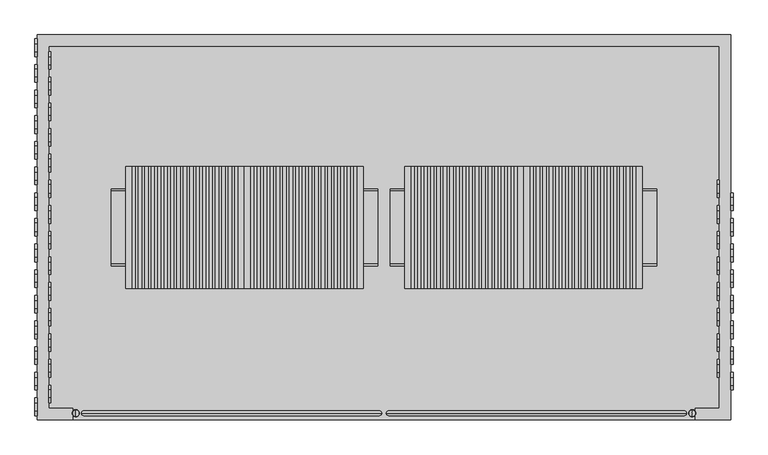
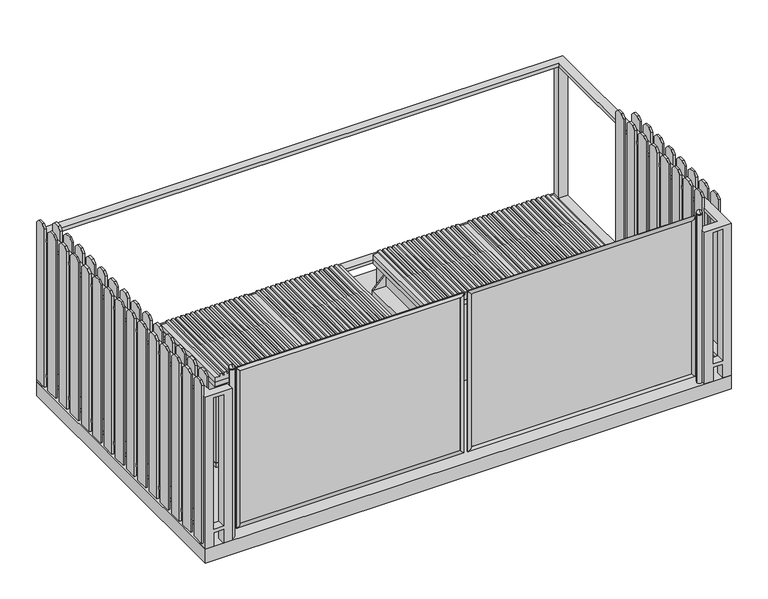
"""IFC4 building model written with IfcOpenShell, lengths in millimetres: geographic element geometry, Wood_Dumpster_Enclosure_3849 : 2 Yard Dumpsters."""

from ifc_helpers import new_model, si_unit, point, frame, frame_2d, origin, place, context, project, spatial, polyline, circle_curve, ellipse_curve, trimmed, segment, composite_curve, outline, extrude, faceted_brep, source, transform, mapped, element, save
from ifc_brep_helpers import plane_surface, cylinder_surface, revolved_surface, advanced_brep


def geographic_element_d687a30b(model_context):
    return source(origin(), model_context, "Body", "SolidModel", [
        advanced_brep(
        [(-2438.4, -1473.2, 1885.95), (-2438.4, -1444.9173308, 1885.95), (-2438.4, -1501.4826692, 1885.95), (-2438.4, -1498.6, 1891.4305324), (-2438.4, -1447.8, 1891.4305324), (-2438.4, -1473.2, 1923.3486146), (-2438.4, -1501.4826692, 1891.4305324), (-2438.4, -1444.9173308, 1891.4305324)],
        [
            (0, 1),
            (1, 2, circle_curve(frame((-2438.4, -1473.2, 1885.95), z_axis=(0.0, 0.0, -1.0), x_axis=(0.0, 1.0, 0.0)), 28.2826692)),
            (2, 0),
            (2, 1, circle_curve(frame((-2438.4, -1473.2, 1885.95), z_axis=(0.0, 0.0, -1.0), x_axis=(0.0, 1.0, 0.0)), 28.2826692)),
            (3, 4, circle_curve(frame((-2438.4, -1473.2, 1891.4305324), z_axis=(0.0, 0.0, 1.0), x_axis=(0.0, 1.0, 0.0)), 25.4)),
            (4, 5, circle_curve(frame((-2438.4, -1479.5879428, 1892.1996337), z_axis=(1.0, 0.0, 0.0), x_axis=(0.0, 0.0, 1.0)), 31.7972455)),
            (5, 3, circle_curve(frame((-2438.4, -1466.8120572, 1892.1996337), z_axis=(1.0, 0.0, 0.0), x_axis=(0.0, 0.0, 1.0)), 31.7972455)),
            (4, 3, circle_curve(frame((-2438.4, -1473.2, 1891.4305324), z_axis=(0.0, 0.0, 1.0), x_axis=(0.0, 1.0, 0.0)), 25.4)),
            (6, 7, circle_curve(frame((-2438.4, -1473.2, 1891.4305324), z_axis=(0.0, 0.0, 1.0), x_axis=(0.0, 1.0, 0.0)), 28.2826692)),
            (7, 4),
            (3, 6),
            (7, 6, circle_curve(frame((-2438.4, -1473.2, 1891.4305324), z_axis=(0.0, 0.0, 1.0), x_axis=(0.0, 1.0, 0.0)), 28.2826692)),
            (1, 7),
            (6, 2),
        ],
        [
            plane_surface(frame((-2438.4, -1473.2, 1885.95), z_axis=(0.0, 0.0, -1.0), x_axis=(0.0, 1.0, 0.0))),
            revolved_surface(trimmed(ellipse_curve(frame((-2438.4, -1479.5879428, 1892.1996337), z_axis=(-1.0, 0.0, 0.0), x_axis=(0.0, 0.0, 1.0)), 31.7972455, 31.7972455), [point((-2438.4, -1473.2, 1923.3486146))], [point((-2438.4, -1447.8, 1891.4305324))], True, "CARTESIAN"), (-2438.4, -1473.2, 1993.4203947), (0.0, 0.0, -1.0)),
            plane_surface(frame((-2438.4, -1473.2, 1891.4305324), z_axis=(0.0, 0.0, 1.0), x_axis=(0.0, 1.0, 0.0))),
            cylinder_surface(frame((-2438.4, -1473.2, 1993.4203947), z_axis=(0.0, 0.0, -1.0), x_axis=(0.0, 1.0, 0.0)), 28.2826692),
        ],
        [
            (0, [[1, 2, 3]]),
            (0, [[-3, 4, -1]]),
            (1, [[5, 6, 7]]),
            (1, [[8, -7, -6]]),
            (2, [[9, 10, -5, 11]]),
            (2, [[12, -11, -8, -10]]),
            (3, [[-2, 13, -9, 14]]),
            (3, [[-4, -14, -12, -13]]),
        ],
    ),
        extrude(outline(polyline([(57.15, -1470.025), (2355.85, -1470.025), (2355.85, -1476.375), (57.15, -1476.375), (57.15, -1470.025)])), frame((0.0, 0.0, 146.05), z_axis=(0.0, 0.0, 1.0), x_axis=(1.0, 0.0, 0.0)), (0.0, 0.0, 1.0), 1689.1),
        advanced_brep(
        [(2355.85, -1473.2, 1835.15), (2393.95, -1473.2, 1873.25), (2393.95, -1473.2, 107.95), (2355.85, -1473.2, 146.05), (19.05, -1473.2, 107.95), (57.15, -1473.2, 146.05), (19.05, -1473.2, 1873.25), (57.15, -1473.2, 1835.15)],
        [
            (0, 1, ellipse_curve(frame((2374.9, -1473.2, 1854.2), z_axis=(0.7071067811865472, 0.0, -0.7071067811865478), x_axis=(0.7071067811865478, 0.0, 0.7071067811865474)), 26.9407684, 19.05)),
            (1, 2),
            (2, 3, ellipse_curve(frame((2374.9, -1473.2, 127.0), z_axis=(0.7071067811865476, 0.0, 0.7071067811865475), x_axis=(-0.7071067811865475, 0.0, 0.7071067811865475)), 26.9407684, 19.05)),
            (3, 0),
            (1, 0, ellipse_curve(frame((2374.9, -1473.2, 1854.2), z_axis=(0.7071067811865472, 0.0, -0.7071067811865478), x_axis=(0.7071067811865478, 0.0, 0.7071067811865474)), 26.9407684, 19.05)),
            (3, 2, ellipse_curve(frame((2374.9, -1473.2, 127.0), z_axis=(0.7071067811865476, 0.0, 0.7071067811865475), x_axis=(-0.7071067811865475, 0.0, 0.7071067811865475)), 26.9407684, 19.05)),
            (2, 4),
            (4, 5, ellipse_curve(frame((38.1, -1473.2, 127.0), z_axis=(0.7071067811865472, 0.0, -0.7071067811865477), x_axis=(0.7071067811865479, 0.0, 0.7071067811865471)), 26.9407684, 19.05)),
            (5, 3),
            (5, 4, ellipse_curve(frame((38.1, -1473.2, 127.0), z_axis=(0.7071067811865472, 0.0, -0.7071067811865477), x_axis=(0.7071067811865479, 0.0, 0.7071067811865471)), 26.9407684, 19.05)),
            (4, 6),
            (6, 7, ellipse_curve(frame((38.1, -1473.2, 1854.2), z_axis=(-0.7071067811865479, 0.0, -0.7071067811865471), x_axis=(0.7071067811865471, 0.0, -0.7071067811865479)), 26.9407684, 19.05)),
            (7, 5),
            (7, 6, ellipse_curve(frame((38.1, -1473.2, 1854.2), z_axis=(-0.7071067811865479, 0.0, -0.7071067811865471), x_axis=(0.7071067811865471, 0.0, -0.7071067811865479)), 26.9407684, 19.05)),
            (6, 1),
            (0, 7),
        ],
        [
            cylinder_surface(frame((2374.9, -1473.2, 1854.2), z_axis=(0.0, 0.0, 1.0), x_axis=(-1.0, 0.0, 0.0)), 19.05),
            cylinder_surface(frame((2374.9, -1473.2, 127.0), z_axis=(1.0, 0.0, 0.0), x_axis=(0.0, 0.0, 1.0)), 19.05),
            cylinder_surface(frame((38.1, -1473.2, 127.0), z_axis=(0.0, 0.0, -1.0), x_axis=(1.0, 0.0, 0.0)), 19.05),
            cylinder_surface(frame((38.1, -1473.2, 1854.2), z_axis=(-1.0, 0.0, 0.0), x_axis=(0.0, 0.0, -1.0)), 19.05),
        ],
        [
            (0, [[1, 2, 3, 4]]),
            (0, [[5, -4, 6, -2]]),
            (1, [[-3, 7, 8, 9]]),
            (1, [[-6, -9, 10, -7]]),
            (2, [[-8, 11, 12, 13]]),
            (2, [[-10, -13, 14, -11]]),
            (3, [[-12, 15, -1, 16]]),
            (3, [[-14, -16, -5, -15]]),
        ],
    ),
        extrude(outline(polyline([(-2355.85, -1470.025), (-57.15, -1470.025), (-57.15, -1476.375), (-2355.85, -1476.375), (-2355.85, -1470.025)])), frame((0.0, 0.0, 146.05), z_axis=(0.0, 0.0, 1.0), x_axis=(1.0, 0.0, 0.0)), (0.0, 0.0, 1.0), 1689.1),
        advanced_brep(
        [(-2393.95, -1473.2, 1873.25), (-2355.85, -1473.2, 1835.15), (-2355.85, -1473.2, 146.05), (-2393.95, -1473.2, 107.95), (-57.15, -1473.2, 146.05), (-19.05, -1473.2, 107.95), (-57.15, -1473.2, 1835.15), (-19.05, -1473.2, 1873.25)],
        [
            (0, 1, ellipse_curve(frame((-2374.9, -1473.2, 1854.2), z_axis=(-0.7071067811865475, 0.0, -0.7071067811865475), x_axis=(-0.7071067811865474, 0.0, 0.7071067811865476)), 26.9407684, 19.05)),
            (1, 2),
            (2, 3, ellipse_curve(frame((-2374.9, -1473.2, 127.0), z_axis=(-0.7071067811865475, 0.0, 0.7071067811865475), x_axis=(0.7071067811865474, 0.0, 0.7071067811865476)), 26.9407684, 19.05)),
            (3, 0),
            (1, 0, ellipse_curve(frame((-2374.9, -1473.2, 1854.2), z_axis=(-0.7071067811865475, 0.0, -0.7071067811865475), x_axis=(-0.7071067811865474, 0.0, 0.7071067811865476)), 26.9407684, 19.05)),
            (3, 2, ellipse_curve(frame((-2374.9, -1473.2, 127.0), z_axis=(-0.7071067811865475, 0.0, 0.7071067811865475), x_axis=(0.7071067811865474, 0.0, 0.7071067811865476)), 26.9407684, 19.05)),
            (2, 4),
            (4, 5, ellipse_curve(frame((-38.1, -1473.2, 127.0), z_axis=(-0.7071067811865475, 0.0, -0.7071067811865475), x_axis=(-0.7071067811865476, 0.0, 0.7071067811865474)), 26.9407684, 19.05)),
            (5, 3),
            (5, 4, ellipse_curve(frame((-38.1, -1473.2, 127.0), z_axis=(-0.7071067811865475, 0.0, -0.7071067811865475), x_axis=(-0.7071067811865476, 0.0, 0.7071067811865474)), 26.9407684, 19.05)),
            (4, 6),
            (6, 7, ellipse_curve(frame((-38.1, -1473.2, 1854.2), z_axis=(0.7071067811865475, 0.0, -0.7071067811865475), x_axis=(-0.7071067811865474, 0.0, -0.7071067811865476)), 26.9407684, 19.05)),
            (7, 5),
            (7, 6, ellipse_curve(frame((-38.1, -1473.2, 1854.2), z_axis=(0.7071067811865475, 0.0, -0.7071067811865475), x_axis=(-0.7071067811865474, 0.0, -0.7071067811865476)), 26.9407684, 19.05)),
            (6, 1),
            (0, 7),
        ],
        [
            cylinder_surface(frame((-2374.9, -1473.2, 1854.2), z_axis=(0.0, 0.0, 1.0), x_axis=(-1.0, 0.0, 0.0)), 19.05),
            cylinder_surface(frame((-2374.9, -1473.2, 127.0), z_axis=(-1.0, 0.0, 0.0), x_axis=(0.0, 0.0, -1.0)), 19.05),
            cylinder_surface(frame((-38.1, -1473.2, 127.0), z_axis=(0.0, 0.0, -1.0), x_axis=(1.0, 0.0, 0.0)), 19.05),
            cylinder_surface(frame((-38.1, -1473.2, 1854.2), z_axis=(1.0, 0.0, 0.0), x_axis=(0.0, 0.0, 1.0)), 19.05),
        ],
        [
            (0, [[1, 2, 3, 4]]),
            (0, [[5, -4, 6, -2]]),
            (1, [[-3, 7, 8, 9]]),
            (1, [[-6, -9, 10, -7]]),
            (2, [[-8, 11, 12, 13]]),
            (2, [[-10, -13, 14, -11]]),
            (3, [[-12, 15, -1, 16]]),
            (3, [[-14, -16, -5, -15]]),
        ],
    ),
        advanced_brep(
        [(2438.4, -1473.2, 1885.95), (2438.4, -1444.9173308, 1885.95), (2438.4, -1501.4826692, 1885.95), (2438.4, -1498.6, 1891.4305324), (2438.4, -1447.8, 1891.4305324), (2438.4, -1473.2, 1923.3486146), (2438.4, -1501.4826692, 1891.4305324), (2438.4, -1444.9173308, 1891.4305324)],
        [
            (0, 1),
            (1, 2, circle_curve(frame((2438.4, -1473.2, 1885.95), z_axis=(0.0, 0.0, -1.0), x_axis=(0.0, 1.0, 0.0)), 28.2826692)),
            (2, 0),
            (2, 1, circle_curve(frame((2438.4, -1473.2, 1885.95), z_axis=(0.0, 0.0, -1.0), x_axis=(0.0, 1.0, 0.0)), 28.2826692)),
            (3, 4, circle_curve(frame((2438.4, -1473.2, 1891.4305324), z_axis=(0.0, 0.0, 1.0), x_axis=(0.0, 1.0, 0.0)), 25.4)),
            (4, 5, circle_curve(frame((2438.4, -1479.5879428, 1892.1996337), z_axis=(1.0, 0.0, 0.0), x_axis=(0.0, 0.0, 1.0)), 31.7972455)),
            (5, 3, circle_curve(frame((2438.4, -1466.8120572, 1892.1996337), z_axis=(1.0, 0.0, 0.0), x_axis=(0.0, 0.0, 1.0)), 31.7972455)),
            (4, 3, circle_curve(frame((2438.4, -1473.2, 1891.4305324), z_axis=(0.0, 0.0, 1.0), x_axis=(0.0, 1.0, 0.0)), 25.4)),
            (6, 7, circle_curve(frame((2438.4, -1473.2, 1891.4305324), z_axis=(0.0, 0.0, 1.0), x_axis=(0.0, 1.0, 0.0)), 28.2826692)),
            (7, 4),
            (3, 6),
            (7, 6, circle_curve(frame((2438.4, -1473.2, 1891.4305324), z_axis=(0.0, 0.0, 1.0), x_axis=(0.0, 1.0, 0.0)), 28.2826692)),
            (1, 7),
            (6, 2),
        ],
        [
            plane_surface(frame((2438.4, -1473.2, 1885.95), z_axis=(0.0, 0.0, -1.0), x_axis=(0.0, 1.0, 0.0))),
            revolved_surface(trimmed(ellipse_curve(frame((2438.4, -1479.5879428, 1892.1996337), z_axis=(-1.0, 0.0, 0.0), x_axis=(0.0, 0.0, 1.0)), 31.7972455, 31.7972455), [point((2438.4, -1473.2, 1923.3486146))], [point((2438.4, -1447.8, 1891.4305324))], True, "CARTESIAN"), (2438.4, -1473.2, 1993.4203947), (0.0, 0.0, -1.0)),
            plane_surface(frame((2438.4, -1473.2, 1891.4305324), z_axis=(0.0, 0.0, 1.0), x_axis=(0.0, 1.0, 0.0))),
            cylinder_surface(frame((2438.4, -1473.2, 1993.4203947), z_axis=(0.0, 0.0, -1.0), x_axis=(0.0, 1.0, 0.0)), 28.2826692),
        ],
        [
            (0, [[1, 2, 3]]),
            (0, [[-3, 4, -1]]),
            (1, [[5, 6, 7]]),
            (1, [[8, -7, -6]]),
            (2, [[9, 10, -5, 11]]),
            (2, [[12, -11, -8, -10]]),
            (3, [[-2, 13, -9, 14]]),
            (3, [[-4, -14, -12, -13]]),
        ],
    ),
        extrude(outline(composite_curve([segment(trimmed(circle_curve(frame_2d((-2438.4, -1473.2)), 25.4), [point((-2463.8, -1473.2))], [point((-2413.0, -1473.2))], False, "CARTESIAN"), True, "CONTINUOUS"), segment(trimmed(circle_curve(frame_2d((-2438.4, -1473.2)), 25.4), [point((-2413.0, -1473.2))], [point((-2463.8, -1473.2))], False, "CARTESIAN"), True, "CONTINUOUS")], self_intersect=False)), frame((0.0, 0.0, 25.4), z_axis=(0.0, 0.0, 1.0), x_axis=(1.0, 0.0, 0.0)), (0.0, 0.0, 1.0), 1860.55),
        extrude(outline(composite_curve([segment(trimmed(circle_curve(frame_2d((2438.4, -1473.2)), 25.4), [point((2413.0, -1473.2))], [point((2463.8, -1473.2))], False, "CARTESIAN"), True, "CONTINUOUS"), segment(trimmed(circle_curve(frame_2d((2438.4, -1473.2)), 25.4), [point((2463.8, -1473.2))], [point((2413.0, -1473.2))], False, "CARTESIAN"), True, "CONTINUOUS")], self_intersect=False)), frame((0.0, 0.0, 25.4), z_axis=(0.0, 0.0, 1.0), x_axis=(1.0, 0.0, 0.0)), (0.0, 0.0, 1.0), 1860.55),
        extrude(outline(polyline([(990.6, 2044.7), (1041.4, 2044.7), (1041.4, 1993.9), (1066.8, 1993.9), (1066.8, 1968.5), (1041.4, 1968.5), (1041.4, 1943.1), (1066.8, 1943.1), (1066.8, 1917.7), (1041.4, 1917.7), (1041.4, 1892.3), (1066.8, 1892.3), (1066.8, 1866.9), (1041.4, 1866.9), (1041.4, 1841.5), (1066.8, 1841.5), (1066.8, 1816.1), (1041.4, 1816.1), (1041.4, 1790.7), (1066.8, 1790.7), (1066.8, 1765.3), (1041.4, 1765.3), (1041.4, 1739.9), (1066.8, 1739.9), (1066.8, 1714.5), (1041.4, 1714.5), (1041.4, 1689.1), (1066.8, 1689.1), (1066.8, 1663.7), (1041.4, 1663.7), (1041.4, 1638.3), (1066.8, 1638.3), (1066.8, 1612.9), (1041.4, 1612.9), (1041.4, 1587.5), (1066.8, 1587.5), (1066.8, 1562.1), (1041.4, 1562.1), (1041.4, 1536.7), (1066.8, 1536.7), (1066.8, 1511.3), (1041.4, 1511.3), (1041.4, 1485.9), (1066.8, 1485.9), (1066.8, 1460.5), (1041.4, 1460.5), (1041.4, 1435.1), (1066.8, 1435.1), (1066.8, 1409.7), (1041.4, 1409.7), (1041.4, 1384.3), (1066.8, 1384.3), (1066.8, 1358.9), (1041.4, 1358.9), (1041.4, 1333.5), (1066.8, 1333.5), (1066.8, 1308.1), (1041.4, 1308.1), (1041.4, 1282.7), (1066.8, 1282.7), (1066.8, 1257.3), (1041.4, 1257.3), (1041.4, 1231.9), (1066.8, 1231.9), (1066.8, 1206.5), (1041.4, 1206.5), (1041.4, 1181.1), (1066.8, 1181.1), (1066.8, 1155.7), (1041.4, 1155.7), (1041.4, 1104.9), (990.6, 1104.9), (990.6, 2044.7)])), frame((0.0, -482.6, 0.0), z_axis=(0.0, 1.0, 0.0), x_axis=(0.0, 0.0, 1.0)), (0.0, 0.0, 1.0), 965.2),
        extrude(outline(polyline([(990.6, 1104.9), (1041.4, 1104.9), (1041.4, 1054.1), (1066.8, 1054.1), (1066.8, 1028.7), (1041.4, 1028.7), (1041.4, 1003.3), (1066.8, 1003.3), (1066.8, 977.9), (1041.4, 977.9), (1041.4, 952.5), (1066.8, 952.5), (1066.8, 927.1), (1041.4, 927.1), (1041.4, 901.7), (1066.8, 901.7), (1066.8, 876.3), (1041.4, 876.3), (1041.4, 850.9), (1066.8, 850.9), (1066.8, 825.5), (1041.4, 825.5), (1041.4, 800.1), (1066.8, 800.1), (1066.8, 774.7), (1041.4, 774.7), (1041.4, 749.3), (1066.8, 749.3), (1066.8, 723.9), (1041.4, 723.9), (1041.4, 698.5), (1066.8, 698.5), (1066.8, 673.1), (1041.4, 673.1), (1041.4, 647.7), (1066.8, 647.7), (1066.8, 622.3), (1041.4, 622.3), (1041.4, 596.9), (1066.8, 596.9), (1066.8, 571.5), (1041.4, 571.5), (1041.4, 546.1), (1066.8, 546.1), (1066.8, 520.7), (1041.4, 520.7), (1041.4, 495.3), (1066.8, 495.3), (1066.8, 469.9), (1041.4, 469.9), (1041.4, 444.5), (1066.8, 444.5), (1066.8, 419.1), (1041.4, 419.1), (1041.4, 393.7), (1066.8, 393.7), (1066.8, 368.3), (1041.4, 368.3), (1041.4, 342.9), (1066.8, 342.9), (1066.8, 317.5), (1041.4, 317.5), (1041.4, 292.1), (1066.8, 292.1), (1066.8, 266.7), (1041.4, 266.7), (1041.4, 241.3), (1066.8, 241.3), (1066.8, 215.9), (1041.4, 215.9), (1041.4, 165.1), (990.6, 165.1), (990.6, 1104.9)])), frame((0.0, -482.6, 0.0), z_axis=(0.0, 1.0, 0.0), x_axis=(0.0, 0.0, 1.0)), (0.0, 0.0, 1.0), 965.2),
        faceted_brep([(63.5, -304.8, 558.8), (63.5, -304.8, 787.4), (190.5, -304.8, 787.4), (190.5, -304.8, 939.8), (50.8, -304.8, 800.1), (50.8, -304.8, 546.1), (190.5, -304.8, 406.4), (190.5, -304.8, 558.8), (63.5, 304.8, 558.8), (190.5, 304.8, 558.8), (190.5, 304.8, 406.4), (50.8, 304.8, 546.1), (50.8, 304.8, 800.1), (190.5, 304.8, 939.8), (190.5, 304.8, 787.4), (63.5, 304.8, 787.4), (190.5, 292.1, 939.8), (190.5, 292.1, 800.1), (190.5, -292.1, 800.1), (190.5, -292.1, 939.8), (50.8, -292.1, 800.1), (50.8, 292.1, 800.1), (50.8, 292.1, 546.1), (50.8, -292.1, 546.1), (190.5, -292.1, 546.1), (190.5, 292.1, 546.1), (190.5, -292.1, 406.4), (190.5, 292.1, 406.4)], [[[0, 1, 2, 3, 4, 5, 6, 7]], [[8, 9, 10, 11, 12, 13, 14, 15]], [[1, 0, 8, 15]], [[2, 1, 15, 14]], [[2, 14, 13, 16, 17, 18, 19, 3]], [[20, 18, 17, 21]], [[5, 4, 20, 21, 12, 11, 22, 23]], [[24, 23, 22, 25]], [[10, 9, 7, 6, 26, 24, 25, 27]], [[0, 7, 9, 8]], [[20, 19, 18]], [[4, 3, 19, 20]], [[17, 16, 21]], [[21, 16, 13, 12]], [[24, 26, 23]], [[6, 5, 23, 26]], [[22, 27, 25]], [[27, 22, 11, 10]]]),
        faceted_brep([(2146.3, -304.8, 558.8), (2019.3, -304.8, 558.8), (2019.3, -304.8, 406.4), (2159.0, -304.8, 546.1), (2159.0, -304.8, 800.1), (2019.3, -304.8, 939.8), (2019.3, -304.8, 787.4), (2146.3, -304.8, 787.4), (2146.3, 304.8, 558.8), (2146.3, 304.8, 787.4), (2019.3, 304.8, 787.4), (2019.3, 304.8, 939.8), (2159.0, 304.8, 800.1), (2159.0, 304.8, 546.1), (2019.3, 304.8, 406.4), (2019.3, 304.8, 558.8), (2019.3, 292.1, 406.4), (2019.3, 292.1, 546.1), (2019.3, -292.1, 546.1), (2019.3, -292.1, 406.4), (2159.0, -292.1, 546.1), (2159.0, 292.1, 546.1), (2159.0, 292.1, 800.1), (2159.0, -292.1, 800.1), (2019.3, -292.1, 800.1), (2019.3, 292.1, 800.1), (2019.3, -292.1, 939.8), (2019.3, 292.1, 939.8)], [[[0, 1, 2, 3, 4, 5, 6, 7]], [[8, 9, 10, 11, 12, 13, 14, 15]], [[1, 0, 8, 15]], [[15, 14, 16, 17, 18, 19, 2, 1]], [[20, 18, 17, 21]], [[4, 3, 20, 21, 13, 12, 22, 23]], [[24, 23, 22, 25]], [[10, 6, 5, 26, 24, 25, 27, 11]], [[7, 6, 10, 9]], [[0, 7, 9, 8]], [[24, 26, 23]], [[5, 4, 23, 26]], [[22, 27, 25]], [[27, 22, 12, 11]], [[20, 19, 18]], [[3, 2, 19, 20]], [[17, 16, 21]], [[21, 16, 14, 13]]]),
        extrude(outline(polyline([(1866.9, 457.2), (2019.3, 457.2), (2019.3, 304.8), (1866.9, 304.8), (1866.9, 457.2)])), frame((0.0, 0.0, 25.4), z_axis=(0.0, 0.0, 1.0), x_axis=(1.0, 0.0, 0.0)), (0.0, 0.0, 1.0), 50.8),
        extrude(outline(polyline([(342.9, 457.2), (342.9, 304.8), (190.5, 304.8), (190.5, 457.2), (342.9, 457.2)])), frame((0.0, 0.0, 25.4), z_axis=(0.0, 0.0, 1.0), x_axis=(1.0, 0.0, 0.0)), (0.0, 0.0, 1.0), 50.8),
        extrude(outline(polyline([(1866.9, -457.2), (1866.9, -304.8), (2019.3, -304.8), (2019.3, -457.2), (1866.9, -457.2)])), frame((0.0, 0.0, 25.4), z_axis=(0.0, 0.0, 1.0), x_axis=(1.0, 0.0, 0.0)), (0.0, 0.0, 1.0), 50.8),
        extrude(outline(polyline([(342.9, -457.2), (190.5, -457.2), (190.5, -304.8), (342.9, -304.8), (342.9, -457.2)])), frame((0.0, 0.0, 25.4), z_axis=(0.0, 0.0, 1.0), x_axis=(1.0, 0.0, 0.0)), (0.0, 0.0, 1.0), 50.8),
        faceted_brep([(165.1, 482.6, 990.6), (165.1, -482.6, 990.6), (2044.7, -482.6, 990.6), (2044.7, 482.6, 990.6), (2019.3, 457.2, 76.2), (2019.3, -457.2, 76.2), (190.5, -457.2, 76.2), (190.5, 457.2, 76.2), (190.5, 457.2, 939.8), (2019.3, 457.2, 939.8), (190.5, -457.2, 939.8), (2019.3, -457.2, 939.8), (165.1, 482.6, 939.8), (2044.7, 482.6, 939.8), (2044.7, -482.6, 939.8), (165.1, -482.6, 939.8)], [[[0, 1, 2, 3]], [[4, 5, 6, 7]], [[4, 7, 8, 9]], [[7, 6, 10, 8]], [[6, 5, 11, 10]], [[5, 4, 9, 11]], [[12, 13, 14, 15], [9, 8, 10, 11]], [[1, 0, 12, 15]], [[2, 1, 15, 14]], [[3, 2, 14, 13]], [[0, 3, 13, 12]]]),
        extrude(outline(polyline([(990.6, -165.1), (1041.4, -165.1), (1041.4, -215.9), (1066.8, -215.9), (1066.8, -241.3), (1041.4, -241.3), (1041.4, -266.7), (1066.8, -266.7), (1066.8, -292.1), (1041.4, -292.1), (1041.4, -317.5), (1066.8, -317.5), (1066.8, -342.9), (1041.4, -342.9), (1041.4, -368.3), (1066.8, -368.3), (1066.8, -393.7), (1041.4, -393.7), (1041.4, -419.1), (1066.8, -419.1), (1066.8, -444.5), (1041.4, -444.5), (1041.4, -469.9), (1066.8, -469.9), (1066.8, -495.3), (1041.4, -495.3), (1041.4, -520.7), (1066.8, -520.7), (1066.8, -546.1), (1041.4, -546.1), (1041.4, -571.5), (1066.8, -571.5), (1066.8, -596.9), (1041.4, -596.9), (1041.4, -622.3), (1066.8, -622.3), (1066.8, -647.7), (1041.4, -647.7), (1041.4, -673.1), (1066.8, -673.1), (1066.8, -698.5), (1041.4, -698.5), (1041.4, -723.9), (1066.8, -723.9), (1066.8, -749.3), (1041.4, -749.3), (1041.4, -774.7), (1066.8, -774.7), (1066.8, -800.1), (1041.4, -800.1), (1041.4, -825.5), (1066.8, -825.5), (1066.8, -850.9), (1041.4, -850.9), (1041.4, -876.3), (1066.8, -876.3), (1066.8, -901.7), (1041.4, -901.7), (1041.4, -927.1), (1066.8, -927.1), (1066.8, -952.5), (1041.4, -952.5), (1041.4, -977.9), (1066.8, -977.9), (1066.8, -1003.3), (1041.4, -1003.3), (1041.4, -1028.7), (1066.8, -1028.7), (1066.8, -1054.1), (1041.4, -1054.1), (1041.4, -1104.9), (990.6, -1104.9), (990.6, -165.1)])), frame((0.0, -482.6, 0.0), z_axis=(0.0, 1.0, 0.0), x_axis=(0.0, 0.0, 1.0)), (0.0, 0.0, 1.0), 965.2),
        extrude(outline(polyline([(990.6, -1104.9), (1041.4, -1104.9), (1041.4, -1155.7), (1066.8, -1155.7), (1066.8, -1181.1), (1041.4, -1181.1), (1041.4, -1206.5), (1066.8, -1206.5), (1066.8, -1231.9), (1041.4, -1231.9), (1041.4, -1257.3), (1066.8, -1257.3), (1066.8, -1282.7), (1041.4, -1282.7), (1041.4, -1308.1), (1066.8, -1308.1), (1066.8, -1333.5), (1041.4, -1333.5), (1041.4, -1358.9), (1066.8, -1358.9), (1066.8, -1384.3), (1041.4, -1384.3), (1041.4, -1409.7), (1066.8, -1409.7), (1066.8, -1435.1), (1041.4, -1435.1), (1041.4, -1460.5), (1066.8, -1460.5), (1066.8, -1485.9), (1041.4, -1485.9), (1041.4, -1511.3), (1066.8, -1511.3), (1066.8, -1536.7), (1041.4, -1536.7), (1041.4, -1562.1), (1066.8, -1562.1), (1066.8, -1587.5), (1041.4, -1587.5), (1041.4, -1612.9), (1066.8, -1612.9), (1066.8, -1638.3), (1041.4, -1638.3), (1041.4, -1663.7), (1066.8, -1663.7), (1066.8, -1689.1), (1041.4, -1689.1), (1041.4, -1714.5), (1066.8, -1714.5), (1066.8, -1739.9), (1041.4, -1739.9), (1041.4, -1765.3), (1066.8, -1765.3), (1066.8, -1790.7), (1041.4, -1790.7), (1041.4, -1816.1), (1066.8, -1816.1), (1066.8, -1841.5), (1041.4, -1841.5), (1041.4, -1866.9), (1066.8, -1866.9), (1066.8, -1892.3), (1041.4, -1892.3), (1041.4, -1917.7), (1066.8, -1917.7), (1066.8, -1943.1), (1041.4, -1943.1), (1041.4, -1968.5), (1066.8, -1968.5), (1066.8, -1993.9), (1041.4, -1993.9), (1041.4, -2044.7), (990.6, -2044.7), (990.6, -1104.9)])), frame((0.0, -482.6, 0.0), z_axis=(0.0, 1.0, 0.0), x_axis=(0.0, 0.0, 1.0)), (0.0, 0.0, 1.0), 965.2),
        faceted_brep([(-2146.3, -304.8, 558.8), (-2146.3, -304.8, 787.4), (-2019.3, -304.8, 787.4), (-2019.3, -304.8, 939.8), (-2159.0, -304.8, 800.1), (-2159.0, -304.8, 546.1), (-2019.3, -304.8, 406.4), (-2019.3, -304.8, 558.8), (-2146.3, 304.8, 558.8), (-2019.3, 304.8, 558.8), (-2019.3, 304.8, 406.4), (-2159.0, 304.8, 546.1), (-2159.0, 304.8, 800.1), (-2019.3, 304.8, 939.8), (-2019.3, 304.8, 787.4), (-2146.3, 304.8, 787.4), (-2019.3, 292.1, 939.8), (-2019.3, 292.1, 800.1), (-2019.3, -292.1, 800.1), (-2019.3, -292.1, 939.8), (-2159.0, -292.1, 800.1), (-2159.0, 292.1, 800.1), (-2159.0, 292.1, 546.1), (-2159.0, -292.1, 546.1), (-2019.3, -292.1, 546.1), (-2019.3, 292.1, 546.1), (-2019.3, -292.1, 406.4), (-2019.3, 292.1, 406.4)], [[[0, 1, 2, 3, 4, 5, 6, 7]], [[8, 9, 10, 11, 12, 13, 14, 15]], [[1, 0, 8, 15]], [[2, 1, 15, 14]], [[2, 14, 13, 16, 17, 18, 19, 3]], [[20, 18, 17, 21]], [[5, 4, 20, 21, 12, 11, 22, 23]], [[24, 23, 22, 25]], [[10, 9, 7, 6, 26, 24, 25, 27]], [[0, 7, 9, 8]], [[20, 19, 18]], [[4, 3, 19, 20]], [[17, 16, 21]], [[21, 16, 13, 12]], [[24, 26, 23]], [[6, 5, 23, 26]], [[22, 27, 25]], [[27, 22, 11, 10]]]),
        faceted_brep([(-63.5, -304.8, 558.8), (-190.5, -304.8, 558.8), (-190.5, -304.8, 406.4), (-50.8, -304.8, 546.1), (-50.8, -304.8, 800.1), (-190.5, -304.8, 939.8), (-190.5, -304.8, 787.4), (-63.5, -304.8, 787.4), (-63.5, 304.8, 558.8), (-63.5, 304.8, 787.4), (-190.5, 304.8, 787.4), (-190.5, 304.8, 939.8), (-50.8, 304.8, 800.1), (-50.8, 304.8, 546.1), (-190.5, 304.8, 406.4), (-190.5, 304.8, 558.8), (-190.5, 292.1, 406.4), (-190.5, 292.1, 546.1), (-190.5, -292.1, 546.1), (-190.5, -292.1, 406.4), (-50.8, -292.1, 546.1), (-50.8, 292.1, 546.1), (-50.8, 292.1, 800.1), (-50.8, -292.1, 800.1), (-190.5, -292.1, 800.1), (-190.5, 292.1, 800.1), (-190.5, -292.1, 939.8), (-190.5, 292.1, 939.8)], [[[0, 1, 2, 3, 4, 5, 6, 7]], [[8, 9, 10, 11, 12, 13, 14, 15]], [[1, 0, 8, 15]], [[15, 14, 16, 17, 18, 19, 2, 1]], [[20, 18, 17, 21]], [[4, 3, 20, 21, 13, 12, 22, 23]], [[24, 23, 22, 25]], [[10, 6, 5, 26, 24, 25, 27, 11]], [[7, 6, 10, 9]], [[0, 7, 9, 8]], [[24, 26, 23]], [[5, 4, 23, 26]], [[22, 27, 25]], [[27, 22, 12, 11]], [[20, 19, 18]], [[3, 2, 19, 20]], [[17, 16, 21]], [[21, 16, 14, 13]]]),
        extrude(outline(polyline([(-342.9, 457.2), (-190.5, 457.2), (-190.5, 304.8), (-342.9, 304.8), (-342.9, 457.2)])), frame((0.0, 0.0, 25.4), z_axis=(0.0, 0.0, 1.0), x_axis=(1.0, 0.0, 0.0)), (0.0, 0.0, 1.0), 50.8),
        extrude(outline(polyline([(-1866.9, 457.2), (-1866.9, 304.8), (-2019.3, 304.8), (-2019.3, 457.2), (-1866.9, 457.2)])), frame((0.0, 0.0, 25.4), z_axis=(0.0, 0.0, 1.0), x_axis=(1.0, 0.0, 0.0)), (0.0, 0.0, 1.0), 50.8),
        extrude(outline(polyline([(-342.9, -457.2), (-342.9, -304.8), (-190.5, -304.8), (-190.5, -457.2), (-342.9, -457.2)])), frame((0.0, 0.0, 25.4), z_axis=(0.0, 0.0, 1.0), x_axis=(1.0, 0.0, 0.0)), (0.0, 0.0, 1.0), 50.8),
        extrude(outline(polyline([(-1866.9, -457.2), (-2019.3, -457.2), (-2019.3, -304.8), (-1866.9, -304.8), (-1866.9, -457.2)])), frame((0.0, 0.0, 25.4), z_axis=(0.0, 0.0, 1.0), x_axis=(1.0, 0.0, 0.0)), (0.0, 0.0, 1.0), 50.8),
        faceted_brep([(-2044.7, 482.6, 990.6), (-2044.7, -482.6, 990.6), (-165.1, -482.6, 990.6), (-165.1, 482.6, 990.6), (-190.5, 457.2, 76.2), (-190.5, -457.2, 76.2), (-2019.3, -457.2, 76.2), (-2019.3, 457.2, 76.2), (-2019.3, 457.2, 939.8), (-190.5, 457.2, 939.8), (-2019.3, -457.2, 939.8), (-190.5, -457.2, 939.8), (-2044.7, 482.6, 939.8), (-165.1, 482.6, 939.8), (-165.1, -482.6, 939.8), (-2044.7, -482.6, 939.8)], [[[0, 1, 2, 3]], [[4, 5, 6, 7]], [[4, 7, 8, 9]], [[7, 6, 10, 8]], [[6, 5, 11, 10]], [[5, 4, 9, 11]], [[12, 13, 14, 15], [9, 8, 10, 11]], [[1, 0, 12, 15]], [[2, 1, 15, 14]], [[3, 2, 14, 13]], [[0, 3, 13, 12]]]),
        extrude(outline(polyline([(2743.2, 1524.0), (2743.2, -1524.0), (-2743.2, -1524.0), (-2743.2, 1524.0), (2743.2, 1524.0)])), frame((0.0, 0.0, -127.0), z_axis=(0.0, 0.0, 1.0), x_axis=(1.0, 0.0, 0.0)), (0.0, 0.0, 1.0), 152.4),
        faceted_brep([(-2654.3, -1435.1, 1701.8), (-2654.3, 1435.1, 1701.8), (2654.3, 1435.1, 1701.8), (2654.3, -1435.1, 1701.8), (2463.8, -1435.1, 1701.8), (2463.8, -1524.0, 1701.8), (2743.2, -1524.0, 1701.8), (2743.2, 1524.0, 1701.8), (-2743.2, 1524.0, 1701.8), (-2743.2, -1524.0, 1701.8), (-2463.8, -1524.0, 1701.8), (-2463.8, -1435.1, 1701.8), (-2654.3, -1435.1, 25.4), (-2654.3, -1524.0, 25.4), (-2743.2, -1524.0, 25.4), (-2743.2, -1435.1, 25.4), (-2743.2, -1435.1, 177.8), (-2654.3, -1435.1, 177.8), (-2743.2, -1435.1, 1663.7), (-2654.3, -1435.1, 1663.7), (-2654.3, -1435.1, 215.9), (-2743.2, -1435.1, 215.9), (-2743.2, 1524.0, 25.4), (-2743.2, 1435.1, 25.4), (-2743.2, 1435.1, 177.8), (-2743.2, 1435.1, 215.9), (-2743.2, 1435.1, 1663.7), (-2654.3, -1524.0, 177.8), (-2552.7, -1524.0, 177.8), (-2552.7, -1524.0, 25.4), (-2463.8, -1524.0, 25.4), (-2654.3, -1524.0, 1663.7), (-2552.7, -1524.0, 1663.7), (-2552.7, -1524.0, 215.9), (-2654.3, -1524.0, 215.9), (2552.7, -1435.1, 1663.7), (2654.3, -1435.1, 1663.7), (2654.3, -1524.0, 1663.7), (2552.7, -1524.0, 1663.7), (2654.3, 1435.1, 1663.7), (2743.2, 1435.1, 1663.7), (2743.2, -1435.1, 1663.7), (-2654.3, 1435.1, 1663.7), (-2654.3, 1524.0, 1663.7), (2654.3, 1524.0, 1663.7), (-2552.7, -1435.1, 1663.7), (-2654.3, 1524.0, 25.4), (2743.2, 1524.0, 25.4), (2654.3, 1524.0, 25.4), (2654.3, 1524.0, 177.8), (-2654.3, 1524.0, 177.8), (-2654.3, 1524.0, 215.9), (2654.3, 1524.0, 215.9), (-2463.8, -1435.1, 25.4), (-2552.7, -1435.1, 25.4), (-2552.7, -1435.1, 177.8), (-2552.7, -1435.1, 215.9), (2552.7, -1435.1, 215.9), (2654.3, -1435.1, 215.9), (2654.3, -1435.1, 177.8), (2552.7, -1435.1, 177.8), (2552.7, -1435.1, 25.4), (2463.8, -1435.1, 25.4), (2654.3, -1524.0, 25.4), (2743.2, -1524.0, 25.4), (2463.8, -1524.0, 25.4), (2552.7, -1524.0, 25.4), (2552.7, -1524.0, 177.8), (2654.3, -1524.0, 177.8), (2654.3, -1524.0, 215.9), (2552.7, -1524.0, 215.9), (2743.2, 1435.1, 25.4), (2743.2, -1435.1, 25.4), (2743.2, -1435.1, 177.8), (2743.2, 1435.1, 177.8), (2743.2, 1435.1, 215.9), (2743.2, -1435.1, 215.9), (-2654.3, 1435.1, 215.9), (2654.3, 1435.1, 215.9), (2654.3, 1435.1, 177.8), (-2654.3, 1435.1, 177.8), (-2654.3, 1435.1, 25.4), (2654.3, 1435.1, 25.4), (2654.3, -1435.1, 25.4)], [[[0, 1, 2, 3, 4, 5, 6, 7, 8, 9, 10, 11]], [[12, 13, 14, 15]], [[12, 15, 16, 17]], [[18, 19, 20, 21]], [[15, 14, 9, 8, 22, 23, 24, 16], [18, 21, 25, 26]], [[14, 13, 27, 28, 29, 30, 10, 9], [31, 32, 33, 34]], [[13, 12, 17, 27]], [[19, 31, 34, 20]], [[35, 36, 37, 38]], [[36, 39, 40, 41]], [[39, 42, 43, 44]], [[42, 19, 18, 26]], [[19, 45, 32, 31]], [[46, 22, 8, 7, 47, 48, 49, 50], [43, 51, 52, 44]], [[45, 19, 0, 11, 53, 54, 55, 17, 20, 56]], [[1, 0, 19, 42]], [[2, 1, 42, 39]], [[3, 2, 39, 36]], [[4, 3, 36, 35, 57, 58, 59, 60, 61, 62]], [[63, 64, 6, 5, 65, 66, 67, 68], [69, 70, 38, 37]], [[71, 47, 7, 6, 64, 72, 73, 74], [40, 75, 76, 41]], [[56, 20, 34, 33]], [[58, 57, 70, 69]], [[20, 77, 25, 21]], [[77, 78, 52, 51]], [[78, 58, 76, 75]], [[17, 55, 28, 27]], [[60, 59, 68, 67]], [[59, 79, 74, 73]], [[79, 80, 50, 49]], [[80, 17, 16, 24]], [[77, 20, 17, 80]], [[78, 77, 80, 79]], [[58, 78, 79, 59]], [[46, 81, 23, 22]], [[26, 25, 77, 42]], [[23, 81, 80, 24]], [[51, 43, 42, 77]], [[81, 46, 50, 80]], [[47, 71, 82, 48]], [[48, 82, 79, 49]], [[78, 39, 44, 52]], [[82, 71, 74, 79]], [[39, 78, 75, 40]], [[83, 72, 64, 63]], [[83, 63, 68, 59]], [[36, 58, 69, 37]], [[72, 83, 59, 73]], [[58, 36, 41, 76]], [[53, 30, 29, 54]], [[45, 56, 33, 32]], [[54, 29, 28, 55]], [[11, 10, 30, 53]], [[62, 61, 66, 65]], [[5, 4, 62, 65]], [[38, 70, 57, 35]], [[66, 61, 60, 67]]]),
        extrude(outline(polyline([(133.35, 76.2), (133.35, 1816.1), (171.45, 1854.2), (234.95, 1854.2), (273.05, 1816.1), (273.05, 76.2), (133.35, 76.2)])), frame((-2762.25, 0.0, 0.0), z_axis=(1.0, 0.0, 0.0), x_axis=(0.0, 1.0, 0.0)), (0.0, 0.0, 1.0), 19.05),
        extrude(outline(polyline([(-69.85, 76.2), (-69.85, 1816.1), (-31.75, 1854.2), (31.75, 1854.2), (69.85, 1816.1), (69.85, 76.2), (-69.85, 76.2)])), frame((-2762.25, 0.0, 0.0), z_axis=(1.0, 0.0, 0.0), x_axis=(0.0, 1.0, 0.0)), (0.0, 0.0, 1.0), 19.05),
        extrude(outline(polyline([(31.75, 76.2), (31.75, 1816.1), (69.85, 1854.2), (133.35, 1854.2), (171.45, 1816.1), (171.45, 76.2), (31.75, 76.2)])), frame((-2654.3, 0.0, 0.0), z_axis=(1.0, 0.0, 0.0), x_axis=(0.0, 1.0, 0.0)), (0.0, 0.0, 1.0), 19.05),
        extrude(outline(polyline([(234.95, 76.2), (234.95, 1816.1), (273.05, 1854.2), (336.55, 1854.2), (374.65, 1816.1), (374.65, 76.2), (234.95, 76.2)])), frame((-2654.3, 0.0, 0.0), z_axis=(1.0, 0.0, 0.0), x_axis=(0.0, 1.0, 0.0)), (0.0, 0.0, 1.0), 19.05),
        extrude(outline(polyline([(-273.05, 76.2), (-273.05, 1816.1), (-234.95, 1854.2), (-171.45, 1854.2), (-133.35, 1816.1), (-133.35, 76.2), (-273.05, 76.2)])), frame((-2762.25, 0.0, 0.0), z_axis=(1.0, 0.0, 0.0), x_axis=(0.0, 1.0, 0.0)), (0.0, 0.0, 1.0), 19.05),
        extrude(outline(polyline([(-171.45, 76.2), (-171.45, 1816.1), (-133.35, 1854.2), (-69.85, 1854.2), (-31.75, 1816.1), (-31.75, 76.2), (-171.45, 76.2)])), frame((-2654.3, 0.0, 0.0), z_axis=(1.0, 0.0, 0.0), x_axis=(0.0, 1.0, 0.0)), (0.0, 0.0, 1.0), 19.05),
        extrude(outline(polyline([(-476.25, 76.2), (-476.25, 1816.1), (-438.15, 1854.2), (-374.65, 1854.2), (-336.55, 1816.1), (-336.55, 76.2), (-476.25, 76.2)])), frame((-2762.25, 0.0, 0.0), z_axis=(1.0, 0.0, 0.0), x_axis=(0.0, 1.0, 0.0)), (0.0, 0.0, 1.0), 19.05),
        extrude(outline(polyline([(-374.65, 76.2), (-374.65, 1816.1), (-336.55, 1854.2), (-273.05, 1854.2), (-234.95, 1816.1), (-234.95, 76.2), (-374.65, 76.2)])), frame((-2654.3, 0.0, 0.0), z_axis=(1.0, 0.0, 0.0), x_axis=(0.0, 1.0, 0.0)), (0.0, 0.0, 1.0), 19.05),
        extrude(outline(polyline([(-679.45, 76.2), (-679.45, 1816.1), (-641.35, 1854.2), (-577.85, 1854.2), (-539.75, 1816.1), (-539.75, 76.2), (-679.45, 76.2)])), frame((-2762.25, 0.0, 0.0), z_axis=(1.0, 0.0, 0.0), x_axis=(0.0, 1.0, 0.0)), (0.0, 0.0, 1.0), 19.05),
        extrude(outline(polyline([(-577.85, 76.2), (-577.85, 1816.1), (-539.75, 1854.2), (-476.25, 1854.2), (-438.15, 1816.1), (-438.15, 76.2), (-577.85, 76.2)])), frame((-2654.3, 0.0, 0.0), z_axis=(1.0, 0.0, 0.0), x_axis=(0.0, 1.0, 0.0)), (0.0, 0.0, 1.0), 19.05),
        extrude(outline(polyline([(-882.65, 76.2), (-882.65, 1816.1), (-844.55, 1854.2), (-781.05, 1854.2), (-742.95, 1816.1), (-742.95, 76.2), (-882.65, 76.2)])), frame((-2762.25, 0.0, 0.0), z_axis=(1.0, 0.0, 0.0), x_axis=(0.0, 1.0, 0.0)), (0.0, 0.0, 1.0), 19.05),
        extrude(outline(polyline([(-781.05, 76.2), (-781.05, 1816.1), (-742.95, 1854.2), (-679.45, 1854.2), (-641.35, 1816.1), (-641.35, 76.2), (-781.05, 76.2)])), frame((-2654.3, 0.0, 0.0), z_axis=(1.0, 0.0, 0.0), x_axis=(0.0, 1.0, 0.0)), (0.0, 0.0, 1.0), 19.05),
        extrude(outline(polyline([(-1085.85, 76.2), (-1085.85, 1816.1), (-1047.75, 1854.2), (-984.25, 1854.2), (-946.15, 1816.1), (-946.15, 76.2), (-1085.85, 76.2)])), frame((-2762.25, 0.0, 0.0), z_axis=(1.0, 0.0, 0.0), x_axis=(0.0, 1.0, 0.0)), (0.0, 0.0, 1.0), 19.05),
        extrude(outline(polyline([(-984.25, 76.2), (-984.25, 1816.1), (-946.15, 1854.2), (-882.65, 1854.2), (-844.55, 1816.1), (-844.55, 76.2), (-984.25, 76.2)])), frame((-2654.3, 0.0, 0.0), z_axis=(1.0, 0.0, 0.0), x_axis=(0.0, 1.0, 0.0)), (0.0, 0.0, 1.0), 19.05),
        extrude(outline(polyline([(-1289.05, 76.2), (-1289.05, 1816.1), (-1250.95, 1854.2), (-1187.45, 1854.2), (-1149.35, 1816.1), (-1149.35, 76.2), (-1289.05, 76.2)])), frame((-2762.25, 0.0, 0.0), z_axis=(1.0, 0.0, 0.0), x_axis=(0.0, 1.0, 0.0)), (0.0, 0.0, 1.0), 19.05),
        extrude(outline(polyline([(-1187.45, 76.2), (-1187.45, 1816.1), (-1149.35, 1854.2), (-1085.85, 1854.2), (-1047.75, 1816.1), (-1047.75, 76.2), (-1187.45, 76.2)])), frame((-2654.3, 0.0, 0.0), z_axis=(1.0, 0.0, 0.0), x_axis=(0.0, 1.0, 0.0)), (0.0, 0.0, 1.0), 19.05),
        extrude(outline(polyline([(-1492.25, 76.2), (-1492.25, 1816.1), (-1454.15, 1854.2), (-1390.65, 1854.2), (-1352.55, 1816.1), (-1352.55, 76.2), (-1492.25, 76.2)])), frame((-2762.25, 0.0, 0.0), z_axis=(1.0, 0.0, 0.0), x_axis=(0.0, 1.0, 0.0)), (0.0, 0.0, 1.0), 19.05),
        extrude(outline(polyline([(-1390.65, 76.2), (-1390.65, 1816.1), (-1352.55, 1854.2), (-1289.05, 1854.2), (-1250.95, 1816.1), (-1250.95, 76.2), (-1390.65, 76.2)])), frame((-2654.3, 0.0, 0.0), z_axis=(1.0, 0.0, 0.0), x_axis=(0.0, 1.0, 0.0)), (0.0, 0.0, 1.0), 19.05),
        extrude(outline(polyline([(336.55, 76.2), (336.55, 1816.1), (374.65, 1854.2), (438.15, 1854.2), (476.25, 1816.1), (476.25, 76.2), (336.55, 76.2)])), frame((-2762.25, 0.0, 0.0), z_axis=(1.0, 0.0, 0.0), x_axis=(0.0, 1.0, 0.0)), (0.0, 0.0, 1.0), 19.05),
        extrude(outline(polyline([(946.15, 76.2), (946.15, 1816.1), (984.25, 1854.2), (1047.75, 1854.2), (1085.85, 1816.1), (1085.85, 76.2), (946.15, 76.2)])), frame((-2762.25, 0.0, 0.0), z_axis=(1.0, 0.0, 0.0), x_axis=(0.0, 1.0, 0.0)), (0.0, 0.0, 1.0), 19.05),
        extrude(outline(polyline([(742.95, 76.2), (742.95, 1816.1), (781.05, 1854.2), (844.55, 1854.2), (882.65, 1816.1), (882.65, 76.2), (742.95, 76.2)])), frame((-2762.25, 0.0, 0.0), z_axis=(1.0, 0.0, 0.0), x_axis=(0.0, 1.0, 0.0)), (0.0, 0.0, 1.0), 19.05),
        extrude(outline(polyline([(844.55, 76.2), (844.55, 1816.1), (882.65, 1854.2), (946.15, 1854.2), (984.25, 1816.1), (984.25, 76.2), (844.55, 76.2)])), frame((-2654.3, 0.0, 0.0), z_axis=(1.0, 0.0, 0.0), x_axis=(0.0, 1.0, 0.0)), (0.0, 0.0, 1.0), 19.05),
        extrude(outline(polyline([(1047.75, 76.2), (1047.75, 1816.1), (1085.85, 1854.2), (1149.35, 1854.2), (1187.45, 1816.1), (1187.45, 76.2), (1047.75, 76.2)])), frame((-2654.3, 0.0, 0.0), z_axis=(1.0, 0.0, 0.0), x_axis=(0.0, 1.0, 0.0)), (0.0, 0.0, 1.0), 19.05),
        extrude(outline(polyline([(539.75, 76.2), (539.75, 1816.1), (577.85, 1854.2), (641.35, 1854.2), (679.45, 1816.1), (679.45, 76.2), (539.75, 76.2)])), frame((-2762.25, 0.0, 0.0), z_axis=(1.0, 0.0, 0.0), x_axis=(0.0, 1.0, 0.0)), (0.0, 0.0, 1.0), 19.05),
        extrude(outline(polyline([(641.35, 76.2), (641.35, 1816.1), (679.45, 1854.2), (742.95, 1854.2), (781.05, 1816.1), (781.05, 76.2), (641.35, 76.2)])), frame((-2654.3, 0.0, 0.0), z_axis=(1.0, 0.0, 0.0), x_axis=(0.0, 1.0, 0.0)), (0.0, 0.0, 1.0), 19.05),
        extrude(outline(polyline([(438.15, 76.2), (438.15, 1816.1), (476.25, 1854.2), (539.75, 1854.2), (577.85, 1816.1), (577.85, 76.2), (438.15, 76.2)])), frame((-2654.3, 0.0, 0.0), z_axis=(1.0, 0.0, 0.0), x_axis=(0.0, 1.0, 0.0)), (0.0, 0.0, 1.0), 19.05),
        extrude(outline(polyline([(1149.35, 76.2), (1149.35, 1816.1), (1187.45, 1854.2), (1250.95, 1854.2), (1289.05, 1816.1), (1289.05, 76.2), (1149.35, 76.2)])), frame((-2762.25, 0.0, 0.0), z_axis=(1.0, 0.0, 0.0), x_axis=(0.0, 1.0, 0.0)), (0.0, 0.0, 1.0), 19.05),
        extrude(outline(polyline([(1250.95, 76.2), (1250.95, 1816.1), (1289.05, 1854.2), (1352.55, 1854.2), (1390.65, 1816.1), (1390.65, 76.2), (1250.95, 76.2)])), frame((-2654.3, 0.0, 0.0), z_axis=(1.0, 0.0, 0.0), x_axis=(0.0, 1.0, 0.0)), (0.0, 0.0, 1.0), 19.05),
        extrude(outline(polyline([(1352.55, 76.2), (1352.55, 1816.1), (1390.65, 1854.2), (1454.15, 1854.2), (1492.25, 1816.1), (1492.25, 76.2), (1352.55, 76.2)])), frame((-2762.25, 0.0, 0.0), z_axis=(1.0, 0.0, 0.0), x_axis=(0.0, 1.0, 0.0)), (0.0, 0.0, 1.0), 19.05),
        extrude(outline(polyline([(133.35, 76.2), (133.35, 1816.1), (171.45, 1854.2), (234.95, 1854.2), (273.05, 1816.1), (273.05, 76.2), (133.35, 76.2)])), frame((2743.2, 0.0, 0.0), z_axis=(1.0, 0.0, 0.0), x_axis=(0.0, 1.0, 0.0)), (0.0, 0.0, 1.0), 19.05),
        extrude(outline(polyline([(-69.85, 76.2), (-69.85, 1816.1), (-31.75, 1854.2), (31.75, 1854.2), (69.85, 1816.1), (69.85, 76.2), (-69.85, 76.2)])), frame((2743.2, 0.0, 0.0), z_axis=(1.0, 0.0, 0.0), x_axis=(0.0, 1.0, 0.0)), (0.0, 0.0, 1.0), 19.05),
        extrude(outline(polyline([(31.75, 76.2), (31.75, 1816.1), (69.85, 1854.2), (133.35, 1854.2), (171.45, 1816.1), (171.45, 76.2), (31.75, 76.2)])), frame((2635.25, 0.0, 0.0), z_axis=(1.0, 0.0, 0.0), x_axis=(0.0, 1.0, 0.0)), (0.0, 0.0, 1.0), 19.05),
        extrude(outline(polyline([(234.95, 76.2), (234.95, 1816.1), (273.05, 1854.2), (336.55, 1854.2), (374.65, 1816.1), (374.65, 76.2), (234.95, 76.2)])), frame((2635.25, 0.0, 0.0), z_axis=(1.0, 0.0, 0.0), x_axis=(0.0, 1.0, 0.0)), (0.0, 0.0, 1.0), 19.05),
        extrude(outline(polyline([(-273.05, 76.2), (-273.05, 1816.1), (-234.95, 1854.2), (-171.45, 1854.2), (-133.35, 1816.1), (-133.35, 76.2), (-273.05, 76.2)])), frame((2743.2, 0.0, 0.0), z_axis=(1.0, 0.0, 0.0), x_axis=(0.0, 1.0, 0.0)), (0.0, 0.0, 1.0), 19.05),
        extrude(outline(polyline([(-171.45, 76.2), (-171.45, 1816.1), (-133.35, 1854.2), (-69.85, 1854.2), (-31.75, 1816.1), (-31.75, 76.2), (-171.45, 76.2)])), frame((2635.25, 0.0, 0.0), z_axis=(1.0, 0.0, 0.0), x_axis=(0.0, 1.0, 0.0)), (0.0, 0.0, 1.0), 19.05),
        extrude(outline(polyline([(-476.25, 76.2), (-476.25, 1816.1), (-438.15, 1854.2), (-374.65, 1854.2), (-336.55, 1816.1), (-336.55, 76.2), (-476.25, 76.2)])), frame((2743.2, 0.0, 0.0), z_axis=(1.0, 0.0, 0.0), x_axis=(0.0, 1.0, 0.0)), (0.0, 0.0, 1.0), 19.05),
        extrude(outline(polyline([(-374.65, 76.2), (-374.65, 1816.1), (-336.55, 1854.2), (-273.05, 1854.2), (-234.95, 1816.1), (-234.95, 76.2), (-374.65, 76.2)])), frame((2635.25, 0.0, 0.0), z_axis=(1.0, 0.0, 0.0), x_axis=(0.0, 1.0, 0.0)), (0.0, 0.0, 1.0), 19.05),
        extrude(outline(polyline([(-679.45, 76.2), (-679.45, 1816.1), (-641.35, 1854.2), (-577.85, 1854.2), (-539.75, 1816.1), (-539.75, 76.2), (-679.45, 76.2)])), frame((2743.2, 0.0, 0.0), z_axis=(1.0, 0.0, 0.0), x_axis=(0.0, 1.0, 0.0)), (0.0, 0.0, 1.0), 19.05),
        extrude(outline(polyline([(-577.85, 76.2), (-577.85, 1816.1), (-539.75, 1854.2), (-476.25, 1854.2), (-438.15, 1816.1), (-438.15, 76.2), (-577.85, 76.2)])), frame((2635.25, 0.0, 0.0), z_axis=(1.0, 0.0, 0.0), x_axis=(0.0, 1.0, 0.0)), (0.0, 0.0, 1.0), 19.05),
        extrude(outline(polyline([(-882.65, 76.2), (-882.65, 1816.1), (-844.55, 1854.2), (-781.05, 1854.2), (-742.95, 1816.1), (-742.95, 76.2), (-882.65, 76.2)])), frame((2743.2, 0.0, 0.0), z_axis=(1.0, 0.0, 0.0), x_axis=(0.0, 1.0, 0.0)), (0.0, 0.0, 1.0), 19.05),
        extrude(outline(polyline([(-781.05, 76.2), (-781.05, 1816.1), (-742.95, 1854.2), (-679.45, 1854.2), (-641.35, 1816.1), (-641.35, 76.2), (-781.05, 76.2)])), frame((2635.25, 0.0, 0.0), z_axis=(1.0, 0.0, 0.0), x_axis=(0.0, 1.0, 0.0)), (0.0, 0.0, 1.0), 19.05),
        extrude(outline(polyline([(-1085.85, 76.2), (-1085.85, 1816.1), (-1047.75, 1854.2), (-984.25, 1854.2), (-946.15, 1816.1), (-946.15, 76.2), (-1085.85, 76.2)])), frame((2743.2, 0.0, 0.0), z_axis=(1.0, 0.0, 0.0), x_axis=(0.0, 1.0, 0.0)), (0.0, 0.0, 1.0), 19.05),
        extrude(outline(polyline([(-984.25, 76.2), (-984.25, 1816.1), (-946.15, 1854.2), (-882.65, 1854.2), (-844.55, 1816.1), (-844.55, 76.2), (-984.25, 76.2)])), frame((2635.25, 0.0, 0.0), z_axis=(1.0, 0.0, 0.0), x_axis=(0.0, 1.0, 0.0)), (0.0, 0.0, 1.0), 19.05),
        extrude(outline(polyline([(-1289.05, 76.2), (-1289.05, 1816.1), (-1250.95, 1854.2), (-1187.45, 1854.2), (-1149.35, 1816.1), (-1149.35, 76.2), (-1289.05, 76.2)])), frame((2743.2, 0.0, 0.0), z_axis=(1.0, 0.0, 0.0), x_axis=(0.0, 1.0, 0.0)), (0.0, 0.0, 1.0), 19.05),
        extrude(outline(polyline([(-1187.45, 76.2), (-1187.45, 1816.1), (-1149.35, 1854.2), (-1085.85, 1854.2), (-1047.75, 1816.1), (-1047.75, 76.2), (-1187.45, 76.2)])), frame((2635.25, 0.0, 0.0), z_axis=(1.0, 0.0, 0.0), x_axis=(0.0, 1.0, 0.0)), (0.0, 0.0, 1.0), 19.05),
    ])


if __name__ == "__main__":
    model = new_model("IFC4")
    model_context = context("Model", 3, world=origin())
    ifc_project = project(units=[si_unit("LENGTHUNIT", "METRE", prefix="MILLI")], contexts=[model_context])
    site = spatial("IfcSite", under=ifc_project)
    building = spatial("IfcBuilding", under=site)
    placement = place(None, origin())
    geographic_element_shape = geographic_element_d687a30b(model_context)
    element("IfcGeographicElement", 1, ObjectType="Wood_Dumpster_Enclosure_3849 : 2 Yard Dumpsters", at=placement, inside=building, context=model_context, shape_type="MappedRepresentation", body=[
        mapped(geographic_element_shape, transform((0.0, 0.0, 0.0), x_axis=(1.0, 0.0, 0.0), y_axis=(0.0, 1.0, 0.0), z_axis=(0.0, 0.0, 1.0))),
    ])
    save(model, "model.ifc")
